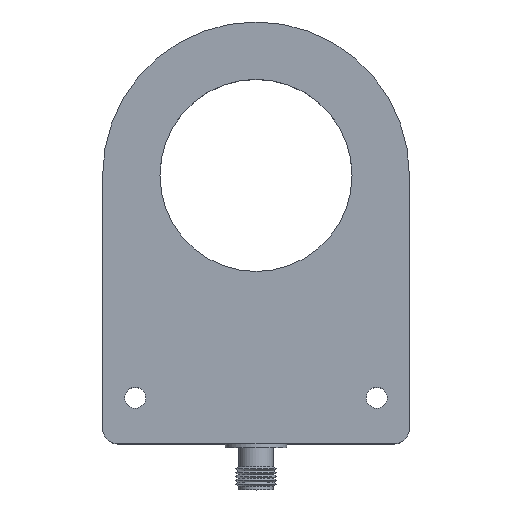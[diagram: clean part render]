
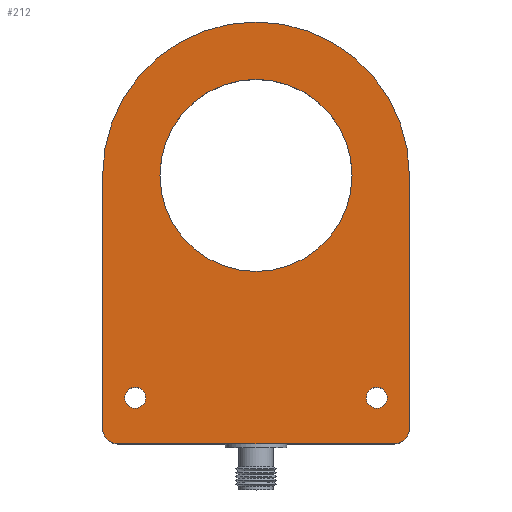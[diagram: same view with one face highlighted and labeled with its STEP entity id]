
A CAD part, top view. The second image highlights one B-rep face of the part: STEP entity #212.
In plain terms, the highlighted planar face has unit normal (0, 0, 1).
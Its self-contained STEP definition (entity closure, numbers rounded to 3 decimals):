
#46 = VERTEX_POINT('',#47);
#47 = CARTESIAN_POINT('',(-40.,0.,20.));
#53 = EDGE_CURVE('',#46,#54,#56,.T.);
#54 = VERTEX_POINT('',#55);
#55 = CARTESIAN_POINT('',(-40.,-66.,20.));
#56 = LINE('',#57,#58);
#57 = CARTESIAN_POINT('',(-40.,0.,20.));
#58 = VECTOR('',#59,1.);
#59 = DIRECTION('',(0.,-1.,0.));
#86 = VERTEX_POINT('',#87);
#87 = CARTESIAN_POINT('',(40.,0.,20.));
#93 = EDGE_CURVE('',#86,#46,#94,.T.);
#94 = CIRCLE('',#95,40.);
#95 = AXIS2_PLACEMENT_3D('',#96,#97,#98);
#96 = CARTESIAN_POINT('',(0.,0.,20.));
#97 = DIRECTION('',(0.,0.,1.));
#98 = DIRECTION('',(1.,0.,0.));
#117 = EDGE_CURVE('',#54,#118,#120,.T.);
#118 = VERTEX_POINT('',#119);
#119 = CARTESIAN_POINT('',(-36.,-70.,20.));
#120 = CIRCLE('',#121,4.);
#121 = AXIS2_PLACEMENT_3D('',#122,#123,#124);
#122 = CARTESIAN_POINT('',(-36.,-66.,20.));
#123 = DIRECTION('',(0.,0.,1.));
#124 = DIRECTION('',(1.,0.,0.));
#212 = ADVANCED_FACE('',(#213,#241,#252,#263),#274,.T.);
#213 = FACE_BOUND('',#214,.T.);
#214 = EDGE_LOOP('',(#215,#216,#217,#225,#234,#240));
#215 = ORIENTED_EDGE('',*,*,#53,.T.);
#216 = ORIENTED_EDGE('',*,*,#117,.T.);
#217 = ORIENTED_EDGE('',*,*,#218,.T.);
#218 = EDGE_CURVE('',#118,#219,#221,.T.);
#219 = VERTEX_POINT('',#220);
#220 = CARTESIAN_POINT('',(36.,-70.,20.));
#221 = LINE('',#222,#223);
#222 = CARTESIAN_POINT('',(-36.,-70.,20.));
#223 = VECTOR('',#224,1.);
#224 = DIRECTION('',(1.,0.,0.));
#225 = ORIENTED_EDGE('',*,*,#226,.T.);
#226 = EDGE_CURVE('',#219,#227,#229,.T.);
#227 = VERTEX_POINT('',#228);
#228 = CARTESIAN_POINT('',(40.,-66.,20.));
#229 = CIRCLE('',#230,4.);
#230 = AXIS2_PLACEMENT_3D('',#231,#232,#233);
#231 = CARTESIAN_POINT('',(36.,-66.,20.));
#232 = DIRECTION('',(0.,0.,1.));
#233 = DIRECTION('',(1.,0.,0.));
#234 = ORIENTED_EDGE('',*,*,#235,.T.);
#235 = EDGE_CURVE('',#227,#86,#236,.T.);
#236 = LINE('',#237,#238);
#237 = CARTESIAN_POINT('',(40.,-66.,20.));
#238 = VECTOR('',#239,1.);
#239 = DIRECTION('',(0.,1.,0.));
#240 = ORIENTED_EDGE('',*,*,#93,.T.);
#241 = FACE_BOUND('',#242,.T.);
#242 = EDGE_LOOP('',(#243));
#243 = ORIENTED_EDGE('',*,*,#244,.F.);
#244 = EDGE_CURVE('',#245,#245,#247,.T.);
#245 = VERTEX_POINT('',#246);
#246 = CARTESIAN_POINT('',(-28.75,-58.,20.));
#247 = CIRCLE('',#248,2.75);
#248 = AXIS2_PLACEMENT_3D('',#249,#250,#251);
#249 = CARTESIAN_POINT('',(-31.5,-58.,20.));
#250 = DIRECTION('',(0.,0.,1.));
#251 = DIRECTION('',(1.,0.,0.));
#252 = FACE_BOUND('',#253,.T.);
#253 = EDGE_LOOP('',(#254));
#254 = ORIENTED_EDGE('',*,*,#255,.F.);
#255 = EDGE_CURVE('',#256,#256,#258,.T.);
#256 = VERTEX_POINT('',#257);
#257 = CARTESIAN_POINT('',(34.25,-58.,20.));
#258 = CIRCLE('',#259,2.75);
#259 = AXIS2_PLACEMENT_3D('',#260,#261,#262);
#260 = CARTESIAN_POINT('',(31.5,-58.,20.));
#261 = DIRECTION('',(0.,0.,1.));
#262 = DIRECTION('',(1.,0.,0.));
#263 = FACE_BOUND('',#264,.T.);
#264 = EDGE_LOOP('',(#265));
#265 = ORIENTED_EDGE('',*,*,#266,.F.);
#266 = EDGE_CURVE('',#267,#267,#269,.T.);
#267 = VERTEX_POINT('',#268);
#268 = CARTESIAN_POINT('',(25.05,0.,20.));
#269 = CIRCLE('',#270,25.05);
#270 = AXIS2_PLACEMENT_3D('',#271,#272,#273);
#271 = CARTESIAN_POINT('',(0.,0.,20.));
#272 = DIRECTION('',(0.,0.,1.));
#273 = DIRECTION('',(1.,0.,0.));
#274 = PLANE('',#275);
#275 = AXIS2_PLACEMENT_3D('',#276,#277,#278);
#276 = CARTESIAN_POINT('',(0.,-22.221,20.));
#277 = DIRECTION('',(0.,0.,1.));
#278 = DIRECTION('',(1.,0.,0.));
